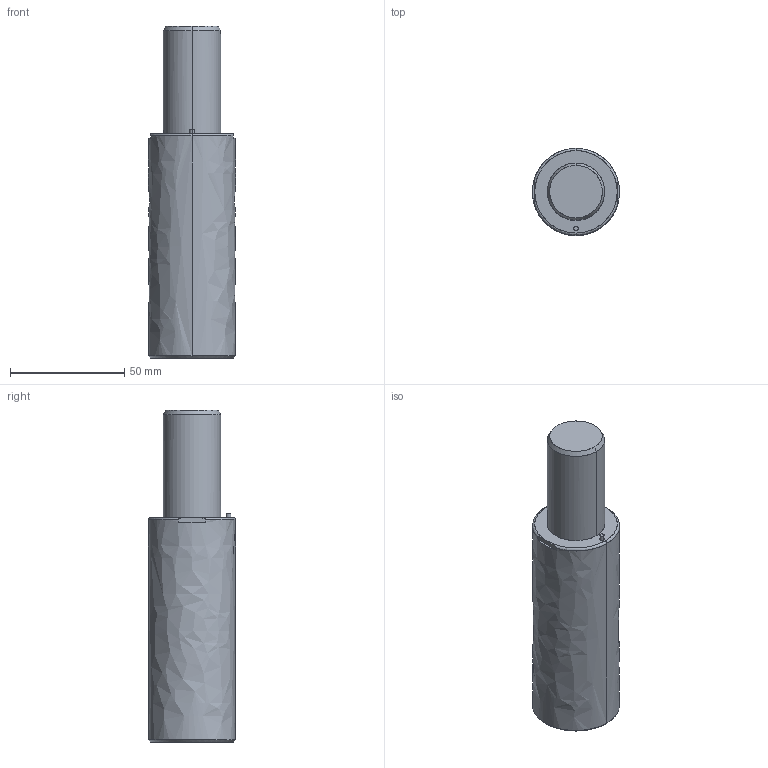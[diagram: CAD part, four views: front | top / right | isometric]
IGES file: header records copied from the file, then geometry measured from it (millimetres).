
Global section: file name: E:\UnigraphicsGraphicData\MISUMI_PRESS-PARTS\IGES\3d_gsx38-45_03965_r00.igs; native system: NX V5.0; preprocessor: UGS NX IGES V5.0; author: MISUMI; date: 20110105.160825; units: millimetre
Bounding box: 38 x 38 x 145 mm (x, y, z)
Surface area: 18779.9 mm2 (no closed solid volume)
Topology: 0 solids, 0 shells, 59 faces, 414 edges, 406 vertices
Faces by surface type: bspline 59
